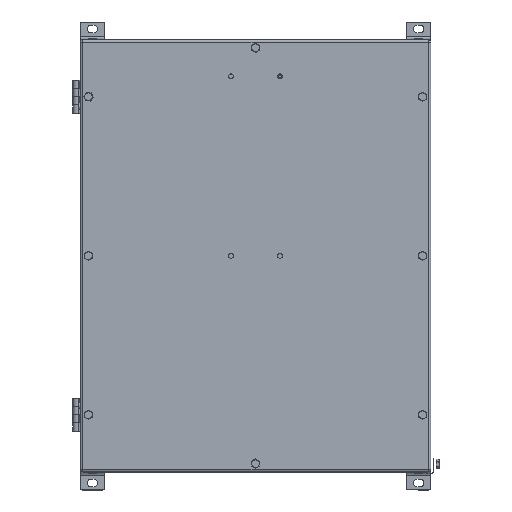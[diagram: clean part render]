
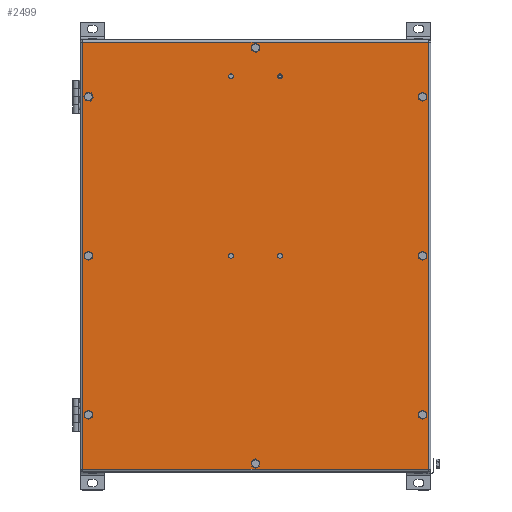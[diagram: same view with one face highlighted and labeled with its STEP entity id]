
A CAD part, top view. The second image highlights one B-rep face of the part: STEP entity #2499.
In plain terms, the highlighted planar face has unit normal (0, 0, 1).
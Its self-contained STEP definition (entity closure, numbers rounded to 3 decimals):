
#1885=CARTESIAN_POINT('',(212.,-262.0,150.5));
#1886=VERTEX_POINT('',#1885);
#1952=CARTESIAN_POINT('',(212.0,262.,150.5));
#1953=VERTEX_POINT('',#1952);
#2019=CARTESIAN_POINT('',(-212.,-262.0,150.5));
#2020=VERTEX_POINT('',#2019);
#2092=CARTESIAN_POINT('',(212.,-262.0,150.5));
#2093=DIRECTION('',(-1.0,0.0,0.0));
#2094=VECTOR('',#2093,424.);
#2095=LINE('',#2092,#2094);
#2096=EDGE_CURVE('',#1886,#2020,#2095,.T.);
#2108=CARTESIAN_POINT('',(-212.0,262.,150.5));
#2109=VERTEX_POINT('',#2108);
#2181=CARTESIAN_POINT('',(-212.,-262.0,150.5));
#2182=DIRECTION('',(0.0,1.0,0.0));
#2183=VECTOR('',#2182,524.0);
#2184=LINE('',#2181,#2183);
#2185=EDGE_CURVE('',#2020,#2109,#2184,.T.);
#2203=CARTESIAN_POINT('',(-212.0,262.,150.5));
#2204=DIRECTION('',(1.0,0.0,0.0));
#2205=VECTOR('',#2204,424.0);
#2206=LINE('',#2203,#2205);
#2207=EDGE_CURVE('',#2109,#1953,#2206,.T.);
#2225=CARTESIAN_POINT('',(212.0,262.0,150.5));
#2226=DIRECTION('',(0.0,-1.0,0.0));
#2227=VECTOR('',#2226,524.0);
#2228=LINE('',#2225,#2227);
#2229=EDGE_CURVE('',#1953,#1886,#2228,.T.);
#2356=CARTESIAN_POINT('',(0.,0.,150.5));
#2357=DIRECTION('',(0.0,0.0,1.0));
#2358=DIRECTION('',(1.0,0.0,0.0));
#2359=AXIS2_PLACEMENT_3D('',#2356,#2357,#2358);
#2360=PLANE('',#2359);
#2361=ORIENTED_EDGE('',*,*,#2096,.F.);
#2362=ORIENTED_EDGE('',*,*,#2229,.F.);
#2363=ORIENTED_EDGE('',*,*,#2207,.F.);
#2364=ORIENTED_EDGE('',*,*,#2185,.F.);
#2365=EDGE_LOOP('',(#2361,#2362,#2363,#2364));
#2366=FACE_OUTER_BOUND('',#2365,.T.);
#2367=CARTESIAN_POINT('',(-201.25,195.,150.5));
#2368=VERTEX_POINT('',#2367);
#2369=CARTESIAN_POINT('',(-205.,195.,150.5));
#2370=DIRECTION('',(0.0,0.0,-1.0));
#2371=DIRECTION('',(-1.0,0.0,0.0));
#2372=AXIS2_PLACEMENT_3D('',#2369,#2370,#2371);
#2373=CIRCLE('',#2372,3.75);
#2374=EDGE_CURVE('',#2368,#2368,#2373,.T.);
#2375=ORIENTED_EDGE('',*,*,#2374,.T.);
#2376=EDGE_LOOP('',(#2375));
#2377=FACE_BOUND('',#2376,.T.);
#2378=CARTESIAN_POINT('',(208.75,195.0,150.5));
#2379=VERTEX_POINT('',#2378);
#2380=CARTESIAN_POINT('',(205.,195.0,150.5));
#2381=DIRECTION('',(0.0,0.0,-1.0));
#2382=DIRECTION('',(-1.0,0.0,0.0));
#2383=AXIS2_PLACEMENT_3D('',#2380,#2381,#2382);
#2384=CIRCLE('',#2383,3.75);
#2385=EDGE_CURVE('',#2379,#2379,#2384,.T.);
#2386=ORIENTED_EDGE('',*,*,#2385,.T.);
#2387=EDGE_LOOP('',(#2386));
#2388=FACE_BOUND('',#2387,.T.);
#2389=CARTESIAN_POINT('',(-201.25,0.,150.5));
#2390=VERTEX_POINT('',#2389);
#2391=CARTESIAN_POINT('',(-205.,0.,150.5));
#2392=DIRECTION('',(0.0,0.0,-1.0));
#2393=DIRECTION('',(-1.0,0.0,0.0));
#2394=AXIS2_PLACEMENT_3D('',#2391,#2392,#2393);
#2395=CIRCLE('',#2394,3.75);
#2396=EDGE_CURVE('',#2390,#2390,#2395,.T.);
#2397=ORIENTED_EDGE('',*,*,#2396,.T.);
#2398=EDGE_LOOP('',(#2397));
#2399=FACE_BOUND('',#2398,.T.);
#2400=CARTESIAN_POINT('',(208.75,0.,150.5));
#2401=VERTEX_POINT('',#2400);
#2402=CARTESIAN_POINT('',(205.,0.,150.5));
#2403=DIRECTION('',(0.0,0.0,-1.0));
#2404=DIRECTION('',(-1.0,0.0,0.0));
#2405=AXIS2_PLACEMENT_3D('',#2402,#2403,#2404);
#2406=CIRCLE('',#2405,3.75);
#2407=EDGE_CURVE('',#2401,#2401,#2406,.T.);
#2408=ORIENTED_EDGE('',*,*,#2407,.T.);
#2409=EDGE_LOOP('',(#2408));
#2410=FACE_BOUND('',#2409,.T.);
#2411=CARTESIAN_POINT('',(-201.25,-195.,150.5));
#2412=VERTEX_POINT('',#2411);
#2413=CARTESIAN_POINT('',(-205.,-195.,150.5));
#2414=DIRECTION('',(0.0,0.0,-1.0));
#2415=DIRECTION('',(-1.0,0.0,0.0));
#2416=AXIS2_PLACEMENT_3D('',#2413,#2414,#2415);
#2417=CIRCLE('',#2416,3.75);
#2418=EDGE_CURVE('',#2412,#2412,#2417,.T.);
#2419=ORIENTED_EDGE('',*,*,#2418,.T.);
#2420=EDGE_LOOP('',(#2419));
#2421=FACE_BOUND('',#2420,.T.);
#2422=CARTESIAN_POINT('',(208.75,-195.0,150.5));
#2423=VERTEX_POINT('',#2422);
#2424=CARTESIAN_POINT('',(205.,-195.0,150.5));
#2425=DIRECTION('',(0.0,0.0,-1.0));
#2426=DIRECTION('',(-1.0,0.0,0.0));
#2427=AXIS2_PLACEMENT_3D('',#2424,#2425,#2426);
#2428=CIRCLE('',#2427,3.75);
#2429=EDGE_CURVE('',#2423,#2423,#2428,.T.);
#2430=ORIENTED_EDGE('',*,*,#2429,.T.);
#2431=EDGE_LOOP('',(#2430));
#2432=FACE_BOUND('',#2431,.T.);
#2433=CARTESIAN_POINT('',(3.75,255.,150.5));
#2434=VERTEX_POINT('',#2433);
#2435=CARTESIAN_POINT('',(0.,255.,150.5));
#2436=DIRECTION('',(0.0,0.0,-1.0));
#2437=DIRECTION('',(-1.0,0.0,0.0));
#2438=AXIS2_PLACEMENT_3D('',#2435,#2436,#2437);
#2439=CIRCLE('',#2438,3.75);
#2440=EDGE_CURVE('',#2434,#2434,#2439,.T.);
#2441=ORIENTED_EDGE('',*,*,#2440,.T.);
#2442=EDGE_LOOP('',(#2441));
#2443=FACE_BOUND('',#2442,.T.);
#2444=CARTESIAN_POINT('',(3.75,-255.,150.5));
#2445=VERTEX_POINT('',#2444);
#2446=CARTESIAN_POINT('',(0.,-255.,150.5));
#2447=DIRECTION('',(0.0,0.0,-1.0));
#2448=DIRECTION('',(-1.0,0.0,0.0));
#2449=AXIS2_PLACEMENT_3D('',#2446,#2447,#2448);
#2450=CIRCLE('',#2449,3.75);
#2451=EDGE_CURVE('',#2445,#2445,#2450,.T.);
#2452=ORIENTED_EDGE('',*,*,#2451,.T.);
#2453=EDGE_LOOP('',(#2452));
#2454=FACE_BOUND('',#2453,.T.);
#2455=CARTESIAN_POINT('',(33.05,220.,150.5));
#2456=VERTEX_POINT('',#2455);
#2457=CARTESIAN_POINT('',(30.,220.,150.5));
#2458=DIRECTION('',(0.0,0.0,-1.0));
#2459=DIRECTION('',(-1.0,0.0,0.0));
#2460=AXIS2_PLACEMENT_3D('',#2457,#2458,#2459);
#2461=CIRCLE('',#2460,3.05);
#2462=EDGE_CURVE('',#2456,#2456,#2461,.T.);
#2463=ORIENTED_EDGE('',*,*,#2462,.T.);
#2464=EDGE_LOOP('',(#2463));
#2465=FACE_BOUND('',#2464,.T.);
#2466=CARTESIAN_POINT('',(-26.95,220.,150.5));
#2467=VERTEX_POINT('',#2466);
#2468=CARTESIAN_POINT('',(-30.,220.,150.5));
#2469=DIRECTION('',(0.0,0.0,-1.0));
#2470=DIRECTION('',(-1.0,0.0,0.0));
#2471=AXIS2_PLACEMENT_3D('',#2468,#2469,#2470);
#2472=CIRCLE('',#2471,3.05);
#2473=EDGE_CURVE('',#2467,#2467,#2472,.T.);
#2474=ORIENTED_EDGE('',*,*,#2473,.T.);
#2475=EDGE_LOOP('',(#2474));
#2476=FACE_BOUND('',#2475,.T.);
#2477=CARTESIAN_POINT('',(-26.95,0.,150.5));
#2478=VERTEX_POINT('',#2477);
#2479=CARTESIAN_POINT('',(-30.,0.,150.5));
#2480=DIRECTION('',(0.0,0.0,-1.0));
#2481=DIRECTION('',(-1.0,0.0,0.0));
#2482=AXIS2_PLACEMENT_3D('',#2479,#2480,#2481);
#2483=CIRCLE('',#2482,3.05);
#2484=EDGE_CURVE('',#2478,#2478,#2483,.T.);
#2485=ORIENTED_EDGE('',*,*,#2484,.T.);
#2486=EDGE_LOOP('',(#2485));
#2487=FACE_BOUND('',#2486,.T.);
#2488=CARTESIAN_POINT('',(33.05,0.,150.5));
#2489=VERTEX_POINT('',#2488);
#2490=CARTESIAN_POINT('',(30.,0.,150.5));
#2491=DIRECTION('',(0.0,0.0,-1.0));
#2492=DIRECTION('',(-1.0,0.0,0.0));
#2493=AXIS2_PLACEMENT_3D('',#2490,#2491,#2492);
#2494=CIRCLE('',#2493,3.05);
#2495=EDGE_CURVE('',#2489,#2489,#2494,.T.);
#2496=ORIENTED_EDGE('',*,*,#2495,.T.);
#2497=EDGE_LOOP('',(#2496));
#2498=FACE_BOUND('',#2497,.T.);
#2499=ADVANCED_FACE('',(#2366,#2377,#2388,#2399,#2410,#2421,#2432,#2443,#2454,#2465,#2476,#2487,#2498),#2360,.T.);
